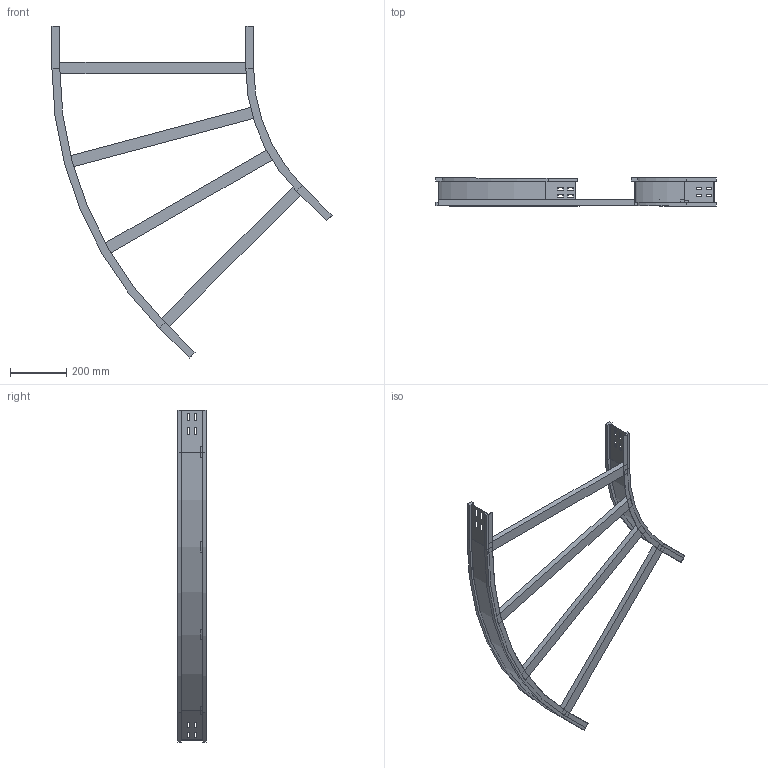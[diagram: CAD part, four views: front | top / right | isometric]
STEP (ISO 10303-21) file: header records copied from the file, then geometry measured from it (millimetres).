
FILE_DESCRIPTION (( 'STEP AP214' ), '1' );
FILE_NAME ('11S6D700.step', '2025-02-21T16:03:56', ( '' ), ( '' ), 'SwSTEP 2.0', 'SolidWorks 2023', '' );
FILE_SCHEMA (( 'AUTOMOTIVE_DESIGN' ));
Length unit declared in the file: millimetre
Products named in the file (4): LONGH.ESTERNO 45°_H100_R600+700; LONGH.INTERNO 45°_H100_R600; 11S6D700; TRAVERSINO_700
Assembly tree (6 placements, depth 2):
  11S6D700
    LONGH.INTERNO 45°_H100_R600
    LONGH.ESTERNO 45°_H100_R600+700
    TRAVERSINO_700  x4
Bounding box: 997.17 x 100 x 1181.67 mm (x, y, z)
Volume: 3362299 mm3; surface area: 961781.2 mm2
Topology: 6 solids, 6 shells, 164 faces, 408 edges, 256 vertices
Faces by surface type: plane 152, cylinder 12
Entity records: 4485 total; most frequent: CARTESIAN_POINT 759, ORIENTED_EDGE 744, DIRECTION 706, EDGE_CURVE 372, LINE 348, VECTOR 348, VERTEX_POINT 232, AXIS2_PLACEMENT_3D 179
